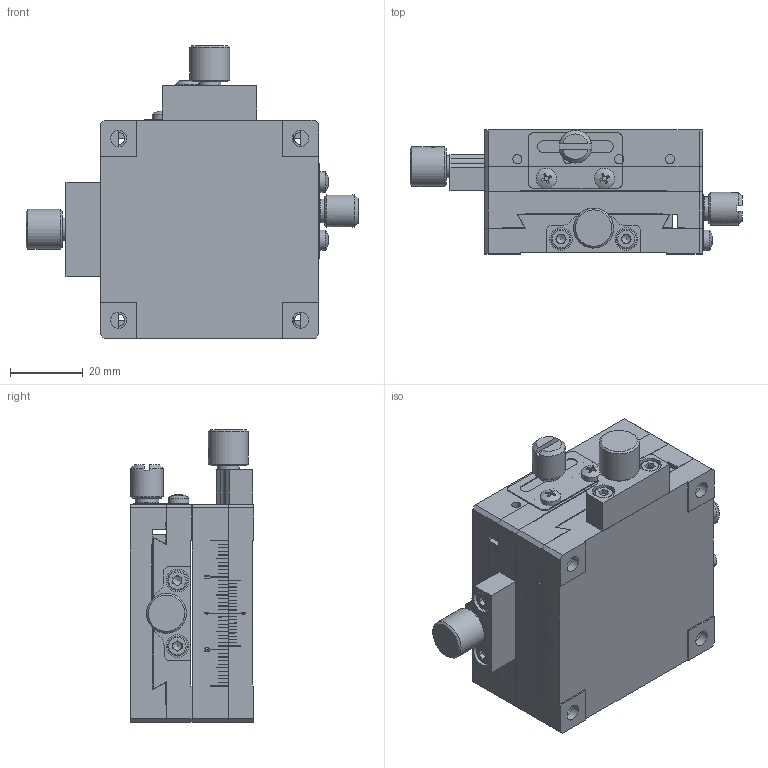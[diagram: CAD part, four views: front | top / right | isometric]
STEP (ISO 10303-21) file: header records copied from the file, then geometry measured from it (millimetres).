
FILE_DESCRIPTION (( 'STEP AP203' ), '1' );
FILE_NAME ('BFB60.STEP', '2024-07-31T06:18:55', ( 'Windows User' ), ( 'P R C' ), 'SwSTEP 2.0', 'SolidWorks 2024', '' );
FILE_SCHEMA (( 'CONFIG_CONTROL_DESIGN' ));
Length unit declared in the file: millimetre
Products named in the file (1): BFB60
Bounding box: 91.3 x 34 x 80.5 mm (x, y, z)
Volume: 115395.3 mm3; surface area: 57673 mm2
Topology: 28 solids, 28 shells, 1276 faces, 3384 edges, 2212 vertices
Faces by surface type: plane 954, cylinder 168, bspline 88, cone 58, torus 4, sphere 4
Full cylindrical faces by diameter (mm): 2.5 x28, 3 x10, 3.2 x4, 3.3 x20, 4 x8, 4.1 x6, 4.5 x10, 5.5 x4, 5.6 x4, 5.8 x4, 6 x2, 6.094 x2, 6.2 x4, 6.5 x2, 6.8 x2, 8 x8, 8.4 x2, 9 x2, 9.9 x2, 11 x4
Entity records: 47599 total; most frequent: CARTESIAN_POINT 17957, ORIENTED_EDGE 6304, DIRECTION 5288, EDGE_CURVE 3152, VERTEX_POINT 2170, LINE 2010, VECTOR 2010, AXIS2_PLACEMENT_3D 1639
